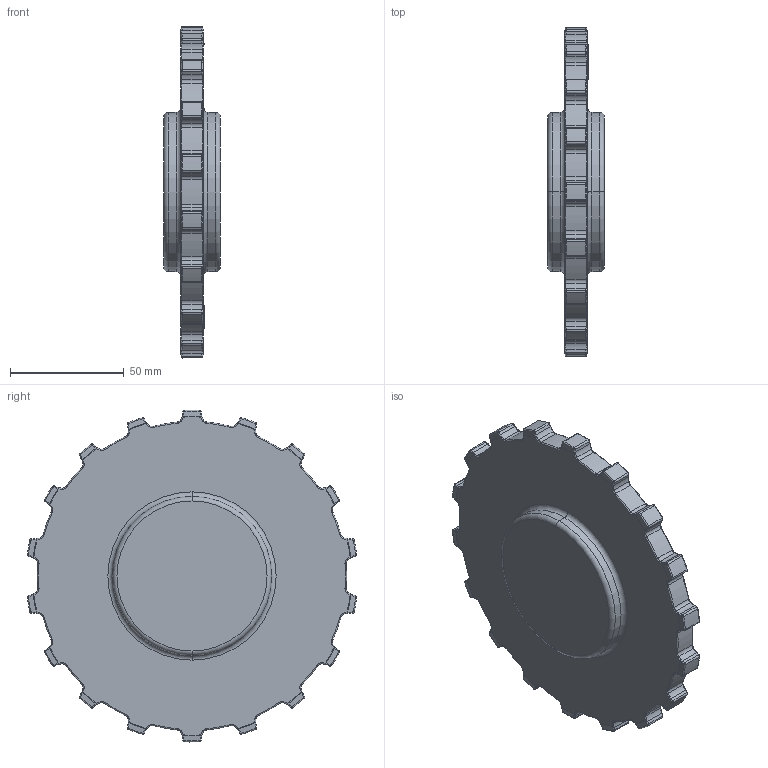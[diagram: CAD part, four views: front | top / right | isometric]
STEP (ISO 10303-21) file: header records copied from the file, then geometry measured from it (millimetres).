
FILE_DESCRIPTION((''),'2;1');
FILE_NAME('14Z18','2009-09-09T',('mth'),(''),'PRO/ENGINEER BY PARAMETRIC TECHNOLOGY CORPORATION, 2008490','PRO/ENGINEER BY PARAMETRIC TECHNOLOGY CORPORATION, 2008490','');
FILE_SCHEMA(('AUTOMOTIVE_DESIGN { 1 0 10303 214 1 1 1 1 }'));
Length unit declared in the file: millimetre
Products named in the file (1): 14Z18
Bounding box: 25 x 144.82 x 146.03 mm (x, y, z)
Volume: 210931.4 mm3; surface area: 38496.8 mm2
Topology: 1 solids, 1 shells, 1129 faces, 2800 edges, 1695 vertices
Faces by surface type: plane 395, bspline 288, torus 260, cylinder 148, cone 38
Entity records: 42216 total; most frequent: CARTESIAN_POINT 17004, ORIENTED_EDGE 5596, DIRECTION 4938, EDGE_CURVE 2798, AXIS2_PLACEMENT_3D 1875, VERTEX_POINT 1695, VECTOR 1188, LINE 1188
